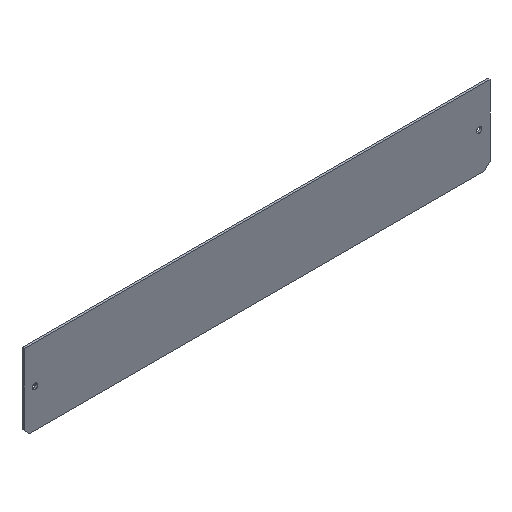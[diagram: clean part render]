
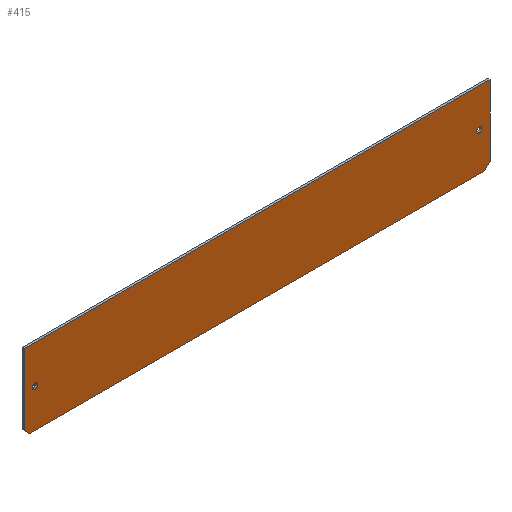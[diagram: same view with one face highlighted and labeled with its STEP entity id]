
A CAD part, isometric view. The second image highlights one B-rep face of the part: STEP entity #415.
In plain terms, the highlighted planar face has unit normal (0, -1, 0).
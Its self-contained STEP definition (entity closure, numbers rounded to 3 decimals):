
#1 = VECTOR ( 'NONE', #409, 1000. ) ;
#2 = VERTEX_POINT ( 'NONE', #268 ) ;
#7 = LINE ( 'NONE', #159, #153 ) ;
#13 = DIRECTION ( 'NONE',  ( 0., 0., 1. ) ) ;
#14 = CIRCLE ( 'NONE', #81, 1. ) ;
#16 = CARTESIAN_POINT ( 'NONE',  ( 82., 0., -1. ) ) ;
#18 = EDGE_LOOP ( 'NONE', ( #282, #141, #358, #359, #297, #300 ) ) ;
#19 = VERTEX_POINT ( 'NONE', #154 ) ;
#20 = DIRECTION ( 'NONE',  ( 0., 0., 1. ) ) ;
#22 = CARTESIAN_POINT ( 'NONE',  ( 86., 0., -12.1 ) ) ;
#27 = CARTESIAN_POINT ( 'NONE',  ( -84., 0., -14.1 ) ) ;
#29 = LINE ( 'NONE', #55, #109 ) ;
#36 = VERTEX_POINT ( 'NONE', #152 ) ;
#39 = CIRCLE ( 'NONE', #257, 1. ) ;
#41 = EDGE_CURVE ( 'NONE', #36, #320, #343, .T. ) ;
#47 = EDGE_CURVE ( 'NONE', #36, #120, #29, .T. ) ;
#53 = DIRECTION ( 'NONE',  ( -1., 0., 0. ) ) ;
#55 = CARTESIAN_POINT ( 'NONE',  ( -86., 0., -14.1 ) ) ;
#57 = CIRCLE ( 'NONE', #279, 1. ) ;
#63 = DIRECTION ( 'NONE',  ( 0., 0., 1. ) ) ;
#66 = DIRECTION ( 'NONE',  ( 0.707, 0., -0.707 ) ) ;
#68 = CARTESIAN_POINT ( 'NONE',  ( 0., 0., 0. ) ) ;
#71 = CARTESIAN_POINT ( 'NONE',  ( -86., 0., -12.1 ) ) ;
#81 = AXIS2_PLACEMENT_3D ( 'NONE', #194, #254, #292 ) ;
#84 = VECTOR ( 'NONE', #294, 1000. ) ;
#87 = DIRECTION ( 'NONE',  ( 0., 1., 0. ) ) ;
#100 = DIRECTION ( 'NONE',  ( 0., 1., 0. ) ) ;
#103 = ORIENTED_EDGE ( 'NONE', *, *, #339, .T. ) ;
#109 = VECTOR ( 'NONE', #53, 1000. ) ;
#118 = VERTEX_POINT ( 'NONE', #400 ) ;
#120 = VERTEX_POINT ( 'NONE', #27 ) ;
#124 = ORIENTED_EDGE ( 'NONE', *, *, #135, .T. ) ;
#125 = VERTEX_POINT ( 'NONE', #71 ) ;
#127 = CARTESIAN_POINT ( 'NONE',  ( -86., 0., 14.1 ) ) ;
#135 = EDGE_CURVE ( 'NONE', #240, #19, #57, .T. ) ;
#137 = DIRECTION ( 'NONE',  ( 0., 0., 1. ) ) ;
#140 = AXIS2_PLACEMENT_3D ( 'NONE', #68, #329, #13 ) ;
#141 = ORIENTED_EDGE ( 'NONE', *, *, #323, .T. ) ;
#152 = CARTESIAN_POINT ( 'NONE',  ( 84., 0., -14.1 ) ) ;
#153 = VECTOR ( 'NONE', #66, 1000. ) ;
#154 = CARTESIAN_POINT ( 'NONE',  ( -82., 0., 1. ) ) ;
#159 = CARTESIAN_POINT ( 'NONE',  ( -86., 0., -12.1 ) ) ;
#161 = EDGE_LOOP ( 'NONE', ( #249, #103 ) ) ;
#171 = LINE ( 'NONE', #253, #84 ) ;
#176 = EDGE_CURVE ( 'NONE', #327, #2, #391, .T. ) ;
#179 = CARTESIAN_POINT ( 'NONE',  ( 84., 0., -14.1 ) ) ;
#186 = DIRECTION ( 'NONE',  ( 0., 1., 0. ) ) ;
#188 = AXIS2_PLACEMENT_3D ( 'NONE', #247, #87, #63 ) ;
#191 = CARTESIAN_POINT ( 'NONE',  ( -86., 0., 14.1 ) ) ;
#194 = CARTESIAN_POINT ( 'NONE',  ( -82., 0., 0. ) ) ;
#197 = CARTESIAN_POINT ( 'NONE',  ( -86., 0., -14.1 ) ) ;
#200 = EDGE_CURVE ( 'NONE', #19, #240, #14, .T. ) ;
#203 = VECTOR ( 'NONE', #368, 1000. ) ;
#204 = FACE_BOUND ( 'NONE', #220, .T. ) ;
#215 = FACE_OUTER_BOUND ( 'NONE', #18, .T. ) ;
#220 = EDGE_LOOP ( 'NONE', ( #289, #124 ) ) ;
#228 = EDGE_CURVE ( 'NONE', #2, #320, #171, .T. ) ;
#229 = DIRECTION ( 'NONE',  ( 1., 0., 0. ) ) ;
#240 = VERTEX_POINT ( 'NONE', #318 ) ;
#241 = EDGE_CURVE ( 'NONE', #118, #342, #39, .T. ) ;
#246 = CARTESIAN_POINT ( 'NONE',  ( -82., 0., 0. ) ) ;
#247 = CARTESIAN_POINT ( 'NONE',  ( 82., 0., 0. ) ) ;
#249 = ORIENTED_EDGE ( 'NONE', *, *, #241, .T. ) ;
#253 = CARTESIAN_POINT ( 'NONE',  ( 86., 0., -14.1 ) ) ;
#254 = DIRECTION ( 'NONE',  ( 0., 1., 0. ) ) ;
#257 = AXIS2_PLACEMENT_3D ( 'NONE', #408, #100, #137 ) ;
#261 = EDGE_CURVE ( 'NONE', #125, #327, #410, .T. ) ;
#268 = CARTESIAN_POINT ( 'NONE',  ( 86., 0., 14.1 ) ) ;
#279 = AXIS2_PLACEMENT_3D ( 'NONE', #246, #186, #20 ) ;
#282 = ORIENTED_EDGE ( 'NONE', *, *, #261, .F. ) ;
#289 = ORIENTED_EDGE ( 'NONE', *, *, #200, .T. ) ;
#292 = DIRECTION ( 'NONE',  ( 0., 0., 1. ) ) ;
#294 = DIRECTION ( 'NONE',  ( 0., 0., -1. ) ) ;
#297 = ORIENTED_EDGE ( 'NONE', *, *, #228, .F. ) ;
#299 = CIRCLE ( 'NONE', #188, 1. ) ;
#300 = ORIENTED_EDGE ( 'NONE', *, *, #176, .F. ) ;
#318 = CARTESIAN_POINT ( 'NONE',  ( -82., 0., -1. ) ) ;
#320 = VERTEX_POINT ( 'NONE', #22 ) ;
#323 = EDGE_CURVE ( 'NONE', #125, #120, #7, .T. ) ;
#327 = VERTEX_POINT ( 'NONE', #127 ) ;
#329 = DIRECTION ( 'NONE',  ( 0., 1., 0. ) ) ;
#339 = EDGE_CURVE ( 'NONE', #342, #118, #299, .T. ) ;
#342 = VERTEX_POINT ( 'NONE', #16 ) ;
#343 = LINE ( 'NONE', #179, #203 ) ;
#358 = ORIENTED_EDGE ( 'NONE', *, *, #47, .F. ) ;
#359 = ORIENTED_EDGE ( 'NONE', *, *, #41, .T. ) ;
#366 = FACE_BOUND ( 'NONE', #161, .T. ) ;
#368 = DIRECTION ( 'NONE',  ( 0.707, 0., 0.707 ) ) ;
#369 = VECTOR ( 'NONE', #229, 1000. ) ;
#376 = PLANE ( 'NONE',  #140 ) ;
#391 = LINE ( 'NONE', #191, #369 ) ;
#400 = CARTESIAN_POINT ( 'NONE',  ( 82., 0., 1. ) ) ;
#408 = CARTESIAN_POINT ( 'NONE',  ( 82., 0., 0. ) ) ;
#409 = DIRECTION ( 'NONE',  ( 0., 0., 1. ) ) ;
#410 = LINE ( 'NONE', #197, #1 ) ;
#415 = ADVANCED_FACE ( 'NONE', ( #204, #366, #215 ), #376, .F. ) ;
